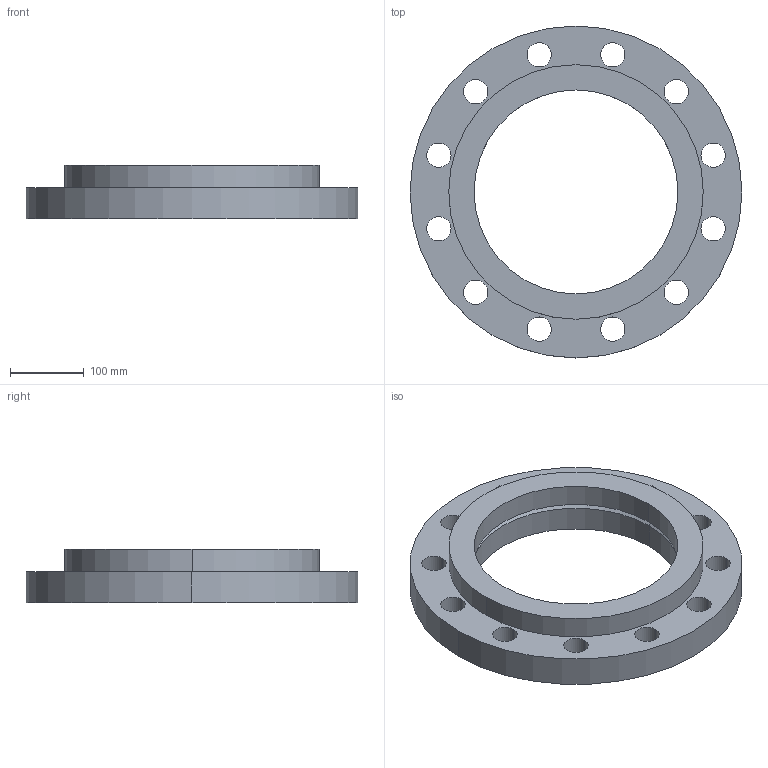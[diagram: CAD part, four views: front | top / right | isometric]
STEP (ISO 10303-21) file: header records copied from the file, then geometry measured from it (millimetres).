
FILE_DESCRIPTION (( 'STEP AP214' ), '1' );
FILE_NAME ('PN40 DN250 Type 02 in 32 - (Type A Face).STEP', '2019-01-05T16:38:04', ( '' ), ( '' ), 'SwSTEP 2.0', 'SolidWorks 2019', '' );
FILE_SCHEMA (( 'AUTOMOTIVE_DESIGN' ));
Length unit declared in the file: millimetre
Products named in the file (1): PN40 DN250 Type 02 in 32 - (Type A Face)
Bounding box: 450 x 450 x 72 mm (x, y, z)
Volume: 4618387.7 mm3; surface area: 443626 mm2
Topology: 2 solids, 2 shells, 38 faces, 100 edges, 66 vertices
Faces by surface type: cylinder 32, plane 4, cone 2
Entity records: 1313 total; most frequent: DIRECTION 244, CARTESIAN_POINT 205, ORIENTED_EDGE 200, AXIS2_PLACEMENT_3D 105, EDGE_CURVE 100, CIRCLE 66, VERTEX_POINT 66, EDGE_LOOP 66
